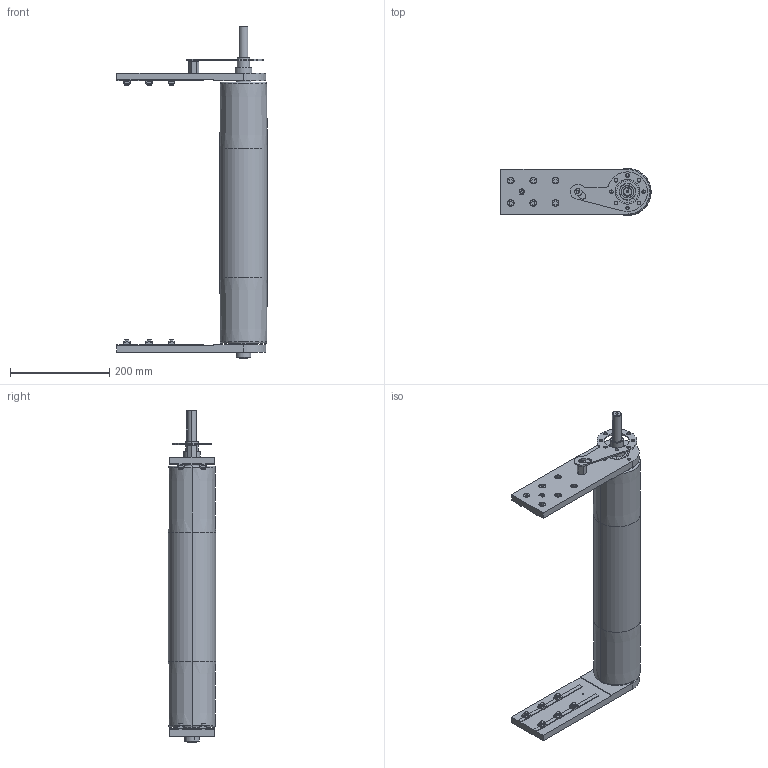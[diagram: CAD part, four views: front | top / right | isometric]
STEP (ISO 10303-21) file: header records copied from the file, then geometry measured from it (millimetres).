
FILE_DESCRIPTION (( 'STEP AP203' ), '1' );
FILE_NAME ('084.095.KD.44.500.STEP', '2014-07-09T11:56:21', ( '' ), ( '' ), 'SwSTEP 2.0', 'SolidWorks 2012', '' );
FILE_SCHEMA (( 'CONFIG_CONTROL_DESIGN' ));
Length unit declared in the file: millimetre
Products named in the file (15): 084.095.KD.44.500; CHIAVETTE_A 6x6x60 UNI 6604-69; circlip for shafts normal_din_Circlip DIN 471 - 30 x 1.5; 084.802.019_084.802.019; 084.810.003; 084.808.002_084.808.002; 084.808.003_084.808.003; 084.812.003; 084.816.108_084.816.108; 084.302.000 DADI ALUSIC 13x13_084.302.004; 084.301.000 VITI ALUSIC_084.301.003; 084.802.034_084.802.034; 084.812.001; 084.807.005; 084.802.027
Assembly tree (38 placements, depth 2):
  084.095.KD.44.500
    084.802.027
    084.807.005
    084.812.001
    084.802.034_084.802.034
    084.301.000 VITI ALUSIC_084.301.003  x12
    084.302.000 DADI ALUSIC 13x13_084.302.004  x12
    084.816.108_084.816.108
    084.812.003
    084.808.003_084.808.003
    084.808.002_084.808.002
    084.810.003  x2
    084.802.019_084.802.019
    circlip for shafts normal_din_Circlip DIN 471 - 30 x 1.5  x2
    CHIAVETTE_A 6x6x60 UNI 6604-69
Bounding box: 302.5 x 95 x 668.5 mm (x, y, z)
Volume: 1892682.5 mm3; surface area: 775062.9 mm2
Topology: 43 solids, 44 shells, 960 faces, 2380 edges, 1548 vertices
Faces by surface type: plane 409, cylinder 339, torus 92, cone 63, bspline 48, sphere 9
Entity records: 21491 total; most frequent: CARTESIAN_POINT 4325, DIRECTION 3234, ORIENTED_EDGE 3040, EDGE_CURVE 1520, AXIS2_PLACEMENT_3D 1274, VERTEX_POINT 993, EDGE_LOOP 715, CIRCLE 691
